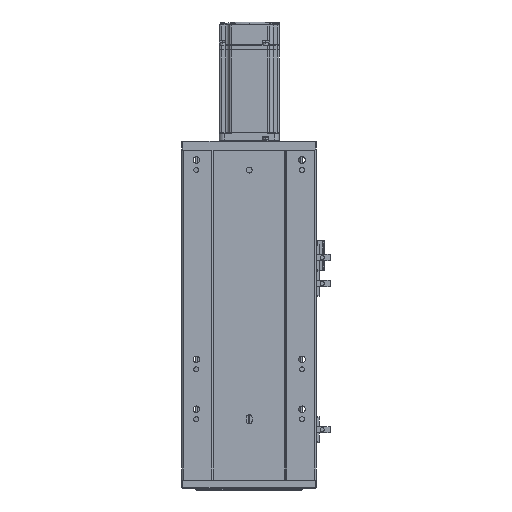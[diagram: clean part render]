
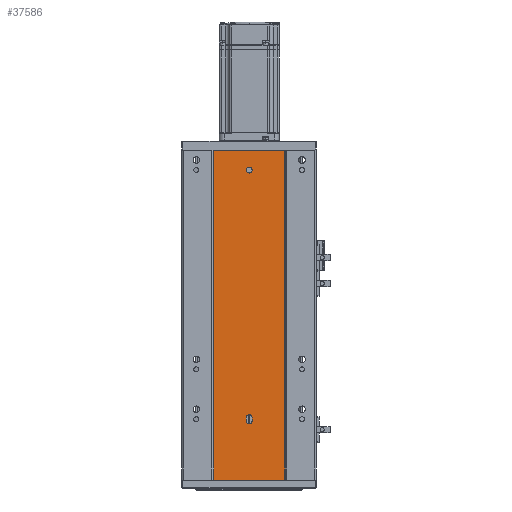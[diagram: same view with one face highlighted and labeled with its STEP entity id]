
A CAD part, front view. The second image highlights one B-rep face of the part: STEP entity #37586.
In plain terms, the highlighted planar face has unit normal (0, -1, 0).
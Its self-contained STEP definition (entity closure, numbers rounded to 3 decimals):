
#291 = CARTESIAN_POINT ( 'NONE',  ( 170.005, 78.746, 331. ) ) ;
#978 = CARTESIAN_POINT ( 'NONE',  ( 0., 78.746, 331. ) ) ;
#1268 = LINE ( 'NONE', #56045, #29408 ) ;
#3896 = CARTESIAN_POINT ( 'NONE',  ( 134.505, 78.746, 62.5 ) ) ;
#4090 = CARTESIAN_POINT ( 'NONE',  ( 99.005, 78.746, 331. ) ) ;
#4682 = VECTOR ( 'NONE', #56256, 1000. ) ;
#6400 = VECTOR ( 'NONE', #49465, 1000. ) ;
#7387 = CARTESIAN_POINT ( 'NONE',  ( 137.505, 78.746, 59.5 ) ) ;
#7641 = VERTEX_POINT ( 'NONE', #18471 ) ;
#8195 = CARTESIAN_POINT ( 'NONE',  ( 134.505, 78.746, 314. ) ) ;
#8353 = VERTEX_POINT ( 'NONE', #44065 ) ;
#9264 = AXIS2_PLACEMENT_3D ( 'NONE', #63110, #39080, #19019 ) ;
#10141 = VERTEX_POINT ( 'NONE', #8195 ) ;
#10994 = VERTEX_POINT ( 'NONE', #14973 ) ;
#11169 = AXIS2_PLACEMENT_3D ( 'NONE', #978, #21325, #25694 ) ;
#11304 = DIRECTION ( 'NONE',  ( 0., 0., 1. ) ) ;
#12559 = EDGE_CURVE ( 'NONE', #27420, #7641, #30601, .T. ) ;
#13222 = LINE ( 'NONE', #40934, #63279 ) ;
#13347 = ORIENTED_EDGE ( 'NONE', *, *, #57389, .F. ) ;
#13976 = EDGE_CURVE ( 'NONE', #51105, #15021, #1268, .T. ) ;
#14424 = FACE_BOUND ( 'NONE', #54776, .T. ) ;
#14973 = CARTESIAN_POINT ( 'NONE',  ( 134.505, 78.746, 308. ) ) ;
#15021 = VERTEX_POINT ( 'NONE', #62071 ) ;
#15603 = DIRECTION ( 'NONE',  ( 0., 0., -1. ) ) ;
#16375 = ORIENTED_EDGE ( 'NONE', *, *, #53093, .T. ) ;
#16536 = DIRECTION ( 'NONE',  ( 0., -1., 0. ) ) ;
#16783 = FACE_BOUND ( 'NONE', #25872, .T. ) ;
#17359 = DIRECTION ( 'NONE',  ( 0., -1., 0. ) ) ;
#18471 = CARTESIAN_POINT ( 'NONE',  ( 99.005, 78.746, 0. ) ) ;
#19019 = DIRECTION ( 'NONE',  ( 1., 0., 0. ) ) ;
#20403 = CARTESIAN_POINT ( 'NONE',  ( 0., 78.746, 331. ) ) ;
#21325 = DIRECTION ( 'NONE',  ( 0., -1., 0. ) ) ;
#21757 = AXIS2_PLACEMENT_3D ( 'NONE', #43094, #17359, #37648 ) ;
#21822 = EDGE_CURVE ( 'NONE', #10994, #10141, #44067, .T. ) ;
#24271 = EDGE_CURVE ( 'NONE', #60784, #25483, #13222, .T. ) ;
#24778 = DIRECTION ( 'NONE',  ( -1., 0., 0. ) ) ;
#24843 = CARTESIAN_POINT ( 'NONE',  ( 99.005, 78.746, 331. ) ) ;
#24959 = CIRCLE ( 'NONE', #46760, 3. ) ;
#25483 = VERTEX_POINT ( 'NONE', #42616 ) ;
#25694 = DIRECTION ( 'NONE',  ( 1., 0., 0. ) ) ;
#25872 = EDGE_LOOP ( 'NONE', ( #59738, #64202 ) ) ;
#26290 = EDGE_CURVE ( 'NONE', #25483, #51105, #49749, .T. ) ;
#27420 = VERTEX_POINT ( 'NONE', #24843 ) ;
#27917 = ORIENTED_EDGE ( 'NONE', *, *, #12559, .T. ) ;
#29408 = VECTOR ( 'NONE', #11304, 1000. ) ;
#29869 = CARTESIAN_POINT ( 'NONE',  ( 0., 78.746, 0. ) ) ;
#30306 = CIRCLE ( 'NONE', #21757, 3. ) ;
#30449 = LINE ( 'NONE', #41852, #4682 ) ;
#30601 = LINE ( 'NONE', #4090, #6400 ) ;
#32747 = ORIENTED_EDGE ( 'NONE', *, *, #63755, .F. ) ;
#34260 = DIRECTION ( 'NONE',  ( -1., 0., 0. ) ) ;
#37586 = ADVANCED_FACE ( 'NONE', ( #14424, #16783, #43329 ), #56172, .T. ) ;
#37648 = DIRECTION ( 'NONE',  ( 1., 0., 0. ) ) ;
#39080 = DIRECTION ( 'NONE',  ( 0., -1., 0. ) ) ;
#40546 = DIRECTION ( 'NONE',  ( 1., 0., 0. ) ) ;
#40934 = CARTESIAN_POINT ( 'NONE',  ( 131.505, 78.746, 62.5 ) ) ;
#41629 = EDGE_CURVE ( 'NONE', #49343, #8353, #30449, .T. ) ;
#41852 = CARTESIAN_POINT ( 'NONE',  ( 170.005, 78.746, 331. ) ) ;
#42616 = CARTESIAN_POINT ( 'NONE',  ( 131.505, 78.746, 59.5 ) ) ;
#43094 = CARTESIAN_POINT ( 'NONE',  ( 134.505, 78.746, 311. ) ) ;
#43329 = FACE_OUTER_BOUND ( 'NONE', #45463, .T. ) ;
#43645 = ORIENTED_EDGE ( 'NONE', *, *, #41629, .F. ) ;
#44065 = CARTESIAN_POINT ( 'NONE',  ( 170.005, 78.746, 0. ) ) ;
#44067 = CIRCLE ( 'NONE', #9264, 3. ) ;
#45463 = EDGE_LOOP ( 'NONE', ( #32747, #43645, #16375, #27917 ) ) ;
#46760 = AXIS2_PLACEMENT_3D ( 'NONE', #3896, #59316, #49055 ) ;
#47144 = AXIS2_PLACEMENT_3D ( 'NONE', #61498, #16536, #40546 ) ;
#48291 = LINE ( 'NONE', #20403, #59988 ) ;
#49055 = DIRECTION ( 'NONE',  ( 1., 0., 0. ) ) ;
#49343 = VERTEX_POINT ( 'NONE', #291 ) ;
#49465 = DIRECTION ( 'NONE',  ( 0., 0., -1. ) ) ;
#49749 = CIRCLE ( 'NONE', #47144, 3. ) ;
#50051 = LINE ( 'NONE', #29869, #61810 ) ;
#50530 = ORIENTED_EDGE ( 'NONE', *, *, #24271, .F. ) ;
#51105 = VERTEX_POINT ( 'NONE', #7387 ) ;
#53093 = EDGE_CURVE ( 'NONE', #49343, #27420, #48291, .T. ) ;
#54155 = ORIENTED_EDGE ( 'NONE', *, *, #26290, .F. ) ;
#54776 = EDGE_LOOP ( 'NONE', ( #13347, #56699, #54155, #50530 ) ) ;
#56045 = CARTESIAN_POINT ( 'NONE',  ( 137.505, 78.746, 62.5 ) ) ;
#56172 = PLANE ( 'NONE',  #11169 ) ;
#56256 = DIRECTION ( 'NONE',  ( 0., 0., -1. ) ) ;
#56273 = CARTESIAN_POINT ( 'NONE',  ( 131.505, 78.746, 62.5 ) ) ;
#56699 = ORIENTED_EDGE ( 'NONE', *, *, #13976, .F. ) ;
#57389 = EDGE_CURVE ( 'NONE', #15021, #60784, #24959, .T. ) ;
#58563 = EDGE_CURVE ( 'NONE', #10141, #10994, #30306, .T. ) ;
#59316 = DIRECTION ( 'NONE',  ( 0., -1., 0. ) ) ;
#59738 = ORIENTED_EDGE ( 'NONE', *, *, #21822, .F. ) ;
#59988 = VECTOR ( 'NONE', #24778, 1000. ) ;
#60784 = VERTEX_POINT ( 'NONE', #56273 ) ;
#61498 = CARTESIAN_POINT ( 'NONE',  ( 134.505, 78.746, 59.5 ) ) ;
#61810 = VECTOR ( 'NONE', #34260, 1000. ) ;
#62071 = CARTESIAN_POINT ( 'NONE',  ( 137.505, 78.746, 62.5 ) ) ;
#63110 = CARTESIAN_POINT ( 'NONE',  ( 134.505, 78.746, 311. ) ) ;
#63279 = VECTOR ( 'NONE', #15603, 1000. ) ;
#63755 = EDGE_CURVE ( 'NONE', #8353, #7641, #50051, .T. ) ;
#64202 = ORIENTED_EDGE ( 'NONE', *, *, #58563, .F. ) ;
